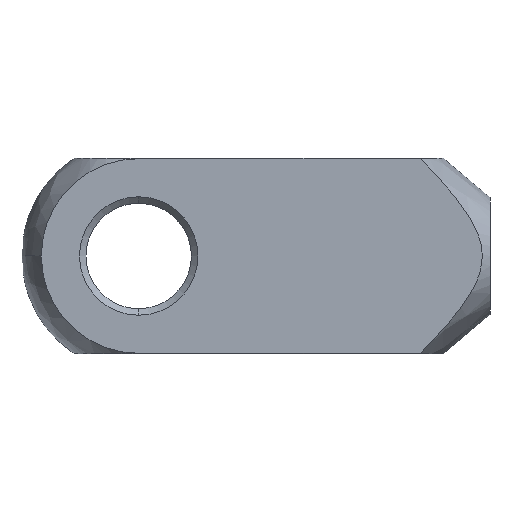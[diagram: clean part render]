
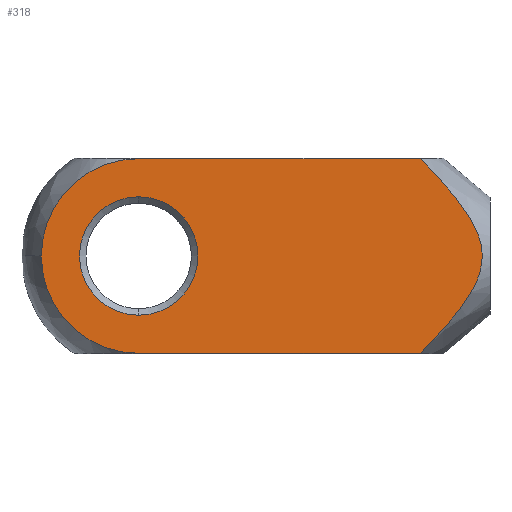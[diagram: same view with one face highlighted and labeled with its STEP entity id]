
A CAD part, left-side view. The second image highlights one B-rep face of the part: STEP entity #318.
In plain terms, the highlighted planar face has unit normal (-1, 0, 0).
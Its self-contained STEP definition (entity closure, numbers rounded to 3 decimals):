
#2 = CARTESIAN_POINT ( 'NONE',  ( -5., -9.685, 2.549 ) ) ;
#6 = DIRECTION ( 'NONE',  ( 0., 0., -1. ) ) ;
#8 = CARTESIAN_POINT ( 'NONE',  ( -5., -10.347, 0.779 ) ) ;
#15 = CARTESIAN_POINT ( 'NONE',  ( -5., -10.012, 1.87 ) ) ;
#17 = AXIS2_PLACEMENT_3D ( 'NONE', #797, #791, #365 ) ;
#45 = VERTEX_POINT ( 'NONE', #821 ) ;
#72 = DIRECTION ( 'NONE',  ( 1., 0., 0. ) ) ;
#80 = CARTESIAN_POINT ( 'NONE',  ( -5., -5.637, 7.483 ) ) ;
#82 = CARTESIAN_POINT ( 'NONE',  ( -5., -5.637, -7.483 ) ) ;
#88 = CARTESIAN_POINT ( 'NONE',  ( -5., -8.205, -4.699 ) ) ;
#92 = CARTESIAN_POINT ( 'NONE',  ( -5., -9.093, 3.504 ) ) ;
#131 = ORIENTED_EDGE ( 'NONE', *, *, #196, .F. ) ;
#164 = CARTESIAN_POINT ( 'NONE',  ( -5., -10.153, 1.511 ) ) ;
#173 = CARTESIAN_POINT ( 'NONE',  ( -5., -9.704, -2.514 ) ) ;
#192 = CIRCLE ( 'NONE', #489, 7.483 ) ;
#196 = EDGE_CURVE ( 'NONE', #479, #238, #192, .T. ) ;
#197 = VECTOR ( 'NONE', #763, 1000. ) ;
#199 = DIRECTION ( 'NONE',  ( 0., 0., 1. ) ) ;
#207 = ORIENTED_EDGE ( 'NONE', *, *, #613, .F. ) ;
#229 = EDGE_CURVE ( 'NONE', #895, #459, #731, .T. ) ;
#231 = DIRECTION ( 'NONE',  ( 0., -1., 0. ) ) ;
#236 = CIRCLE ( 'NONE', #612, 4.55 ) ;
#238 = VERTEX_POINT ( 'NONE', #868 ) ;
#257 = CARTESIAN_POINT ( 'NONE',  ( -5., 0., -7.483 ) ) ;
#267 = CARTESIAN_POINT ( 'NONE',  ( -5., 16., 0. ) ) ;
#273 = CIRCLE ( 'NONE', #17, 4.55 ) ;
#299 = DIRECTION ( 'NONE',  ( 0., 0., -1. ) ) ;
#302 = CARTESIAN_POINT ( 'NONE',  ( -5., -6.696, -6.398 ) ) ;
#318 = ADVANCED_FACE ( 'NONE', ( #798, #630 ), #328, .F. ) ;
#323 = CARTESIAN_POINT ( 'NONE',  ( -5., -9.516, -2.842 ) ) ;
#328 = PLANE ( 'NONE',  #357 ) ;
#345 = ORIENTED_EDGE ( 'NONE', *, *, #486, .F. ) ;
#357 = AXIS2_PLACEMENT_3D ( 'NONE', #825, #384, #6 ) ;
#360 = B_SPLINE_CURVE_WITH_KNOTS ( 'NONE', 3,
 ( #80, #673, #393, #379, #755, #593, #92, #471, #2, #15, #164, #8, #677, #737, #750, #538, #458, #173, #323, #541, #398, #88, #894, #302, #547, #740 ),
 .UNSPECIFIED., .F., .F.,
 ( 4, 2, 2, 2, 2, 2, 2, 2, 2, 2, 2, 2, 4 ),
 ( 0., 0.002, 0.005, 0.006, 0.007, 0.008, 0.009, 0.01, 0.011, 0.012, 0.014, 0.016, 0.018 ),
 .UNSPECIFIED. ) ;
#365 = DIRECTION ( 'NONE',  ( 0., 0., 1. ) ) ;
#375 = EDGE_CURVE ( 'NONE', #863, #479, #860, .T. ) ;
#379 = CARTESIAN_POINT ( 'NONE',  ( -5., -7.703, 5.285 ) ) ;
#384 = DIRECTION ( 'NONE',  ( 1., 0., 0. ) ) ;
#393 = CARTESIAN_POINT ( 'NONE',  ( -5., -6.691, 6.403 ) ) ;
#398 = CARTESIAN_POINT ( 'NONE',  ( -5., -8.892, -3.789 ) ) ;
#458 = CARTESIAN_POINT ( 'NONE',  ( -5., -10.029, -1.829 ) ) ;
#459 = VERTEX_POINT ( 'NONE', #521 ) ;
#471 = CARTESIAN_POINT ( 'NONE',  ( -5., -9.498, 2.873 ) ) ;
#479 = VERTEX_POINT ( 'NONE', #530 ) ;
#486 = EDGE_CURVE ( 'NONE', #459, #863, #360, .T. ) ;
#489 = AXIS2_PLACEMENT_3D ( 'NONE', #874, #72, #299 ) ;
#496 = DIRECTION ( 'NONE',  ( -1., 0., 0. ) ) ;
#520 = CARTESIAN_POINT ( 'NONE',  ( -5., 16., -4.55 ) ) ;
#521 = CARTESIAN_POINT ( 'NONE',  ( -5., -5.637, 7.483 ) ) ;
#530 = CARTESIAN_POINT ( 'NONE',  ( -5., 16., -7.483 ) ) ;
#538 = CARTESIAN_POINT ( 'NONE',  ( -5., -10.167, -1.469 ) ) ;
#541 = CARTESIAN_POINT ( 'NONE',  ( -5., -9.111, -3.479 ) ) ;
#547 = CARTESIAN_POINT ( 'NONE',  ( -5., -6.171, -6.945 ) ) ;
#558 = CIRCLE ( 'NONE', #573, 7.483 ) ;
#573 = AXIS2_PLACEMENT_3D ( 'NONE', #267, #864, #738 ) ;
#591 = CARTESIAN_POINT ( 'NONE',  ( -5., 0., 7.483 ) ) ;
#593 = CARTESIAN_POINT ( 'NONE',  ( -5., -8.876, 3.81 ) ) ;
#612 = AXIS2_PLACEMENT_3D ( 'NONE', #843, #496, #199 ) ;
#613 = EDGE_CURVE ( 'NONE', #45, #764, #236, .T. ) ;
#630 = FACE_OUTER_BOUND ( 'NONE', #778, .T. ) ;
#636 = EDGE_CURVE ( 'NONE', #238, #895, #558, .T. ) ;
#673 = CARTESIAN_POINT ( 'NONE',  ( -5., -6.168, 6.947 ) ) ;
#677 = CARTESIAN_POINT ( 'NONE',  ( -5., -10.402, 0.406 ) ) ;
#697 = EDGE_CURVE ( 'NONE', #764, #45, #273, .T. ) ;
#703 = VECTOR ( 'NONE', #231, 1000. ) ;
#731 = LINE ( 'NONE', #591, #703 ) ;
#737 = CARTESIAN_POINT ( 'NONE',  ( -5., -10.406, -0.361 ) ) ;
#738 = DIRECTION ( 'NONE',  ( 0., 0., -1. ) ) ;
#740 = CARTESIAN_POINT ( 'NONE',  ( -5., -5.637, -7.483 ) ) ;
#750 = CARTESIAN_POINT ( 'NONE',  ( -5., -10.355, -0.737 ) ) ;
#753 = CARTESIAN_POINT ( 'NONE',  ( -5., 16., 7.483 ) ) ;
#755 = CARTESIAN_POINT ( 'NONE',  ( -5., -8.196, 4.709 ) ) ;
#763 = DIRECTION ( 'NONE',  ( 0., 1., 0. ) ) ;
#764 = VERTEX_POINT ( 'NONE', #520 ) ;
#778 = EDGE_LOOP ( 'NONE', ( #345, #909, #856, #131, #823 ) ) ;
#785 = EDGE_LOOP ( 'NONE', ( #207, #838 ) ) ;
#791 = DIRECTION ( 'NONE',  ( -1., 0., 0. ) ) ;
#797 = CARTESIAN_POINT ( 'NONE',  ( -5., 16., 0. ) ) ;
#798 = FACE_BOUND ( 'NONE', #785, .T. ) ;
#821 = CARTESIAN_POINT ( 'NONE',  ( -5., 16., 4.55 ) ) ;
#823 = ORIENTED_EDGE ( 'NONE', *, *, #375, .F. ) ;
#825 = CARTESIAN_POINT ( 'NONE',  ( -5., 0., 7.5 ) ) ;
#838 = ORIENTED_EDGE ( 'NONE', *, *, #697, .F. ) ;
#843 = CARTESIAN_POINT ( 'NONE',  ( -5., 16., 0. ) ) ;
#856 = ORIENTED_EDGE ( 'NONE', *, *, #636, .F. ) ;
#860 = LINE ( 'NONE', #257, #197 ) ;
#863 = VERTEX_POINT ( 'NONE', #82 ) ;
#864 = DIRECTION ( 'NONE',  ( 1., 0., 0. ) ) ;
#868 = CARTESIAN_POINT ( 'NONE',  ( -5., 23.483, 0. ) ) ;
#874 = CARTESIAN_POINT ( 'NONE',  ( -5., 16., 0. ) ) ;
#894 = CARTESIAN_POINT ( 'NONE',  ( -5., -7.712, -5.275 ) ) ;
#895 = VERTEX_POINT ( 'NONE', #753 ) ;
#909 = ORIENTED_EDGE ( 'NONE', *, *, #229, .F. ) ;
